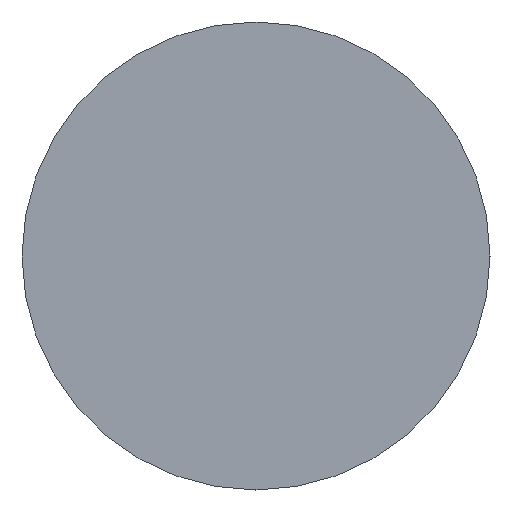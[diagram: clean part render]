
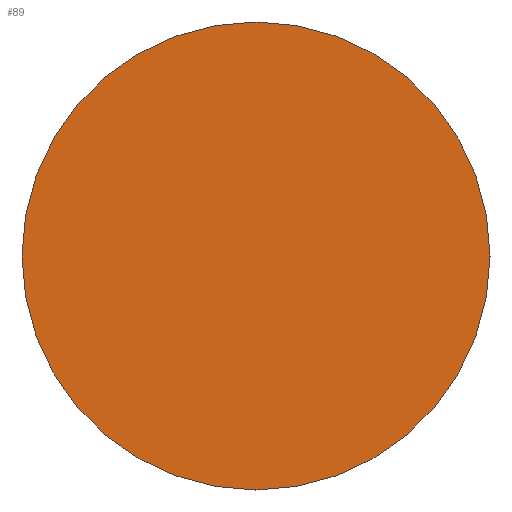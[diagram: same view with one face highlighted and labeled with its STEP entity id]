
A CAD part, left-side view. The second image highlights one B-rep face of the part: STEP entity #89.
In plain terms, the highlighted planar face has unit normal (-1, 0, 0).
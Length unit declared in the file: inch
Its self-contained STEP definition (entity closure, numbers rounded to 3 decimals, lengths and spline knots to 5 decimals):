
#29 = ORIENTED_EDGE ( 'NONE', *, *, #68, .T. ) ;
#32 = PLANE ( 'NONE',  #183 ) ;
#61 = FACE_OUTER_BOUND ( 'NONE', #216, .T. ) ;
#62 = DIRECTION ( 'NONE',  ( 0., 0., 1. ) ) ;
#68 = EDGE_CURVE ( 'NONE', #392, #84, #251, .T. ) ;
#84 = VERTEX_POINT ( 'NONE', #385 ) ;
#89 = ADVANCED_FACE ( 'NONE', ( #61 ), #32, .F. ) ;
#94 = DIRECTION ( 'NONE',  ( -1., 0., 0. ) ) ;
#98 = DIRECTION ( 'NONE',  ( 1., 0., 0. ) ) ;
#140 = CIRCLE ( 'NONE', #422, 0.21875 ) ;
#176 = CARTESIAN_POINT ( 'NONE',  ( -3., 0., 0. ) ) ;
#180 = CARTESIAN_POINT ( 'NONE',  ( -3., 0.21875, 0. ) ) ;
#183 = AXIS2_PLACEMENT_3D ( 'NONE', #180, #98, #210 ) ;
#210 = DIRECTION ( 'NONE',  ( 0., 0., -1. ) ) ;
#216 = EDGE_LOOP ( 'NONE', ( #29, #304 ) ) ;
#251 = CIRCLE ( 'NONE', #380, 0.21875 ) ;
#259 = DIRECTION ( 'NONE',  ( 0., 0., 1. ) ) ;
#282 = CARTESIAN_POINT ( 'NONE',  ( -3., 0., 0. ) ) ;
#304 = ORIENTED_EDGE ( 'NONE', *, *, #375, .T. ) ;
#375 = EDGE_CURVE ( 'NONE', #84, #392, #140, .T. ) ;
#380 = AXIS2_PLACEMENT_3D ( 'NONE', #176, #94, #259 ) ;
#385 = CARTESIAN_POINT ( 'NONE',  ( -3., 0., -0.21875 ) ) ;
#388 = DIRECTION ( 'NONE',  ( -1., 0., 0. ) ) ;
#392 = VERTEX_POINT ( 'NONE', #463 ) ;
#422 = AXIS2_PLACEMENT_3D ( 'NONE', #282, #388, #62 ) ;
#463 = CARTESIAN_POINT ( 'NONE',  ( -3., 0., 0.21875 ) ) ;
